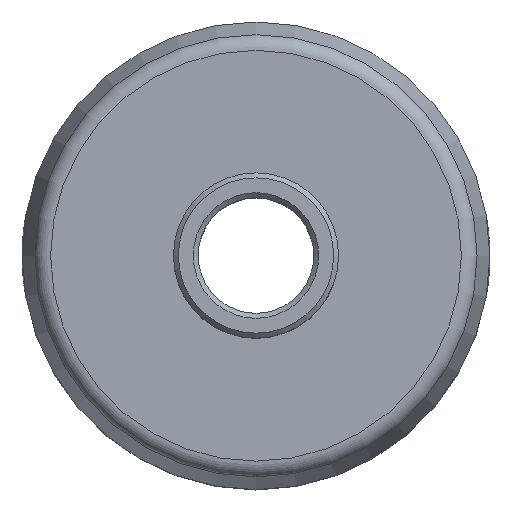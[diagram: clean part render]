
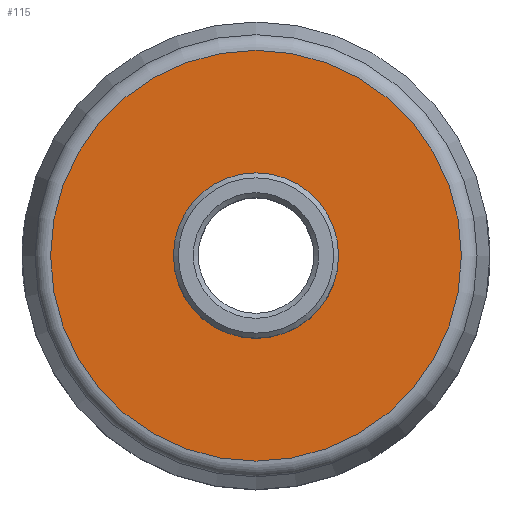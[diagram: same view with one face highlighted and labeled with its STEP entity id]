
A CAD part, top view. The second image highlights one B-rep face of the part: STEP entity #115.
In plain terms, the highlighted planar face has unit normal (0, 0, 1).
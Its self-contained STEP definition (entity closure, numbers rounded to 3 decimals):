
#115=ADVANCED_FACE('',(#138,#139),#134,.T.);
#134=PLANE('',#326);
#138=FACE_BOUND('',#180,.T.);
#139=FACE_BOUND('',#181,.T.);
#180=EDGE_LOOP('',(#222));
#181=EDGE_LOOP('',(#223));
#222=ORIENTED_EDGE('',*,*,#285,.T.);
#223=ORIENTED_EDGE('',*,*,#286,.F.);
#264=VERTEX_POINT('',#436);
#265=VERTEX_POINT('',#438);
#285=EDGE_CURVE('',#264,#264,#306,.T.);
#286=EDGE_CURVE('',#265,#265,#307,.T.);
#306=CIRCLE('',#324,12.429);
#307=CIRCLE('',#325,5.);
#324=AXIS2_PLACEMENT_3D('',#435,#362,#363);
#325=AXIS2_PLACEMENT_3D('',#437,#364,#365);
#326=AXIS2_PLACEMENT_3D('',#439,#366,#367);
#362=DIRECTION('',(0.,0.,1.));
#363=DIRECTION('',(1.,0.,0.));
#364=DIRECTION('',(0.,0.,1.));
#365=DIRECTION('',(1.,0.,0.));
#366=DIRECTION('',(0.,0.,1.));
#367=DIRECTION('',(1.,0.,0.));
#435=CARTESIAN_POINT('',(0.,0.,15.));
#436=CARTESIAN_POINT('',(12.429,0.,15.));
#437=CARTESIAN_POINT('',(0.,0.,15.));
#438=CARTESIAN_POINT('',(5.,0.,15.));
#439=CARTESIAN_POINT('',(0.,0.,15.));
